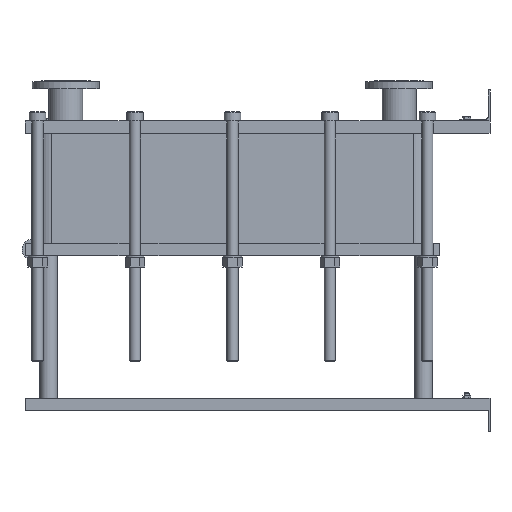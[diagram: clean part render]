
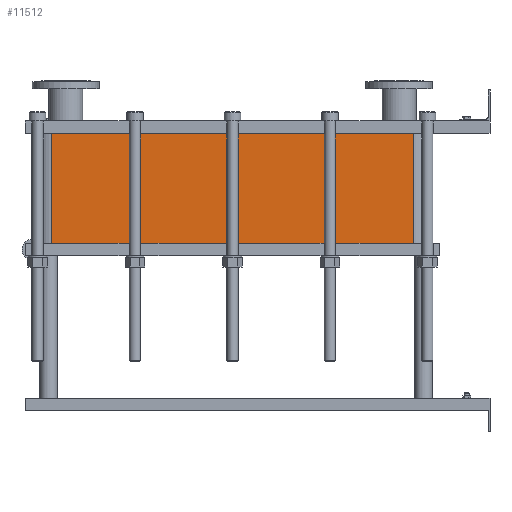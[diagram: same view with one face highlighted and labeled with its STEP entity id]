
A CAD part, left-side view. The second image highlights one B-rep face of the part: STEP entity #11512.
In plain terms, the highlighted planar face has unit normal (-1, 0, 0).
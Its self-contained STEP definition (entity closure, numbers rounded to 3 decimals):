
#1129=LINE('',#23232,#2102);
#1130=LINE('',#23236,#2103);
#1131=LINE('',#23238,#2104);
#1132=LINE('',#23239,#2105);
#2102=VECTOR('',#15887,10.);
#2103=VECTOR('',#15892,10.);
#2104=VECTOR('',#15893,10.);
#2105=VECTOR('',#15894,10.);
#3267=FACE_OUTER_BOUND('',#4093,.T.);
#4093=EDGE_LOOP('',(#10103,#10104,#10105,#10106));
#5642=VERTEX_POINT('',#23229);
#5643=VERTEX_POINT('',#23231);
#5644=VERTEX_POINT('',#23235);
#5645=VERTEX_POINT('',#23237);
#7159=EDGE_CURVE('',#5643,#5642,#1129,.T.);
#7161=EDGE_CURVE('',#5642,#5644,#1130,.T.);
#7162=EDGE_CURVE('',#5645,#5644,#1131,.T.);
#7163=EDGE_CURVE('',#5645,#5643,#1132,.T.);
#10103=ORIENTED_EDGE('',*,*,#7161,.T.);
#10104=ORIENTED_EDGE('',*,*,#7162,.F.);
#10105=ORIENTED_EDGE('',*,*,#7163,.T.);
#10106=ORIENTED_EDGE('',*,*,#7159,.T.);
#10857=PLANE('',#12751);
#11512=ADVANCED_FACE('',(#3267),#10857,.T.);
#12751=AXIS2_PLACEMENT_3D('',#23234,#15890,#15891);
#15887=DIRECTION('',(0.,0.,-1.));
#15890=DIRECTION('center_axis',(-1.,0.,0.));
#15891=DIRECTION('ref_axis',(0.,1.,0.));
#15892=DIRECTION('',(0.,-1.,0.));
#15893=DIRECTION('',(0.,0.,-1.));
#15894=DIRECTION('',(0.,1.,0.));
#23229=CARTESIAN_POINT('',(-200.,1414.,-355.35));
#23231=CARTESIAN_POINT('',(-200.,1414.,0.));
#23232=CARTESIAN_POINT('',(-200.,1414.,0.));
#23234=CARTESIAN_POINT('Origin',(-200.,248.,0.));
#23235=CARTESIAN_POINT('',(-200.,248.,-355.35));
#23236=CARTESIAN_POINT('',(-200.,539.5,-355.35));
#23237=CARTESIAN_POINT('',(-200.,248.,0.));
#23238=CARTESIAN_POINT('',(-200.,248.,0.));
#23239=CARTESIAN_POINT('',(-200.,248.,0.));
